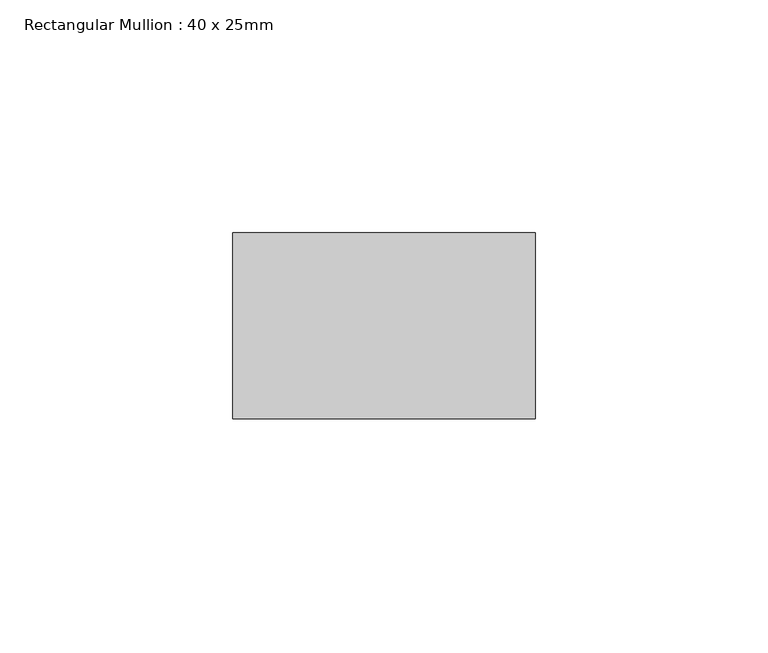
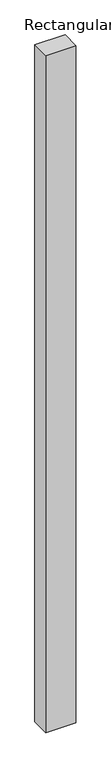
"""IFC4 building model written with IfcOpenShell, lengths in millimetres: member geometry, Rectangular Mullion : 40 x 25mm."""

from ifc_helpers import new_model, si_unit, frame, origin, place, context, project, spatial, polyline, outline, extrude, source, transform, mapped, element, save


def rectangular_mullion_40_x_25mm_165cdfc6(model_context):
    return source(origin(), model_context, "Body", "SweptSolid", [
        extrude(outline(polyline([(0.0, -20.0), (0.0, -60.0), (-65.0, -60.0), (-65.0, -20.0), (0.0, -20.0)])), frame((0.0, 0.0, -1540.0), z_axis=(0.0, 0.0, 1.0), x_axis=(1.0, 0.0, 0.0)), (0.0, 0.0, 1.0), 1540.0),
    ])


if __name__ == "__main__":
    model = new_model("IFC4")
    model_context = context("Model", 3, world=origin())
    ifc_project = project(units=[si_unit("LENGTHUNIT", "METRE", prefix="MILLI")], contexts=[model_context])
    site = spatial("IfcSite", under=ifc_project)
    building = spatial("IfcBuilding", under=site)
    placement = place(None, origin())
    rectangular_mullion_40_x_25mm_shape = rectangular_mullion_40_x_25mm_165cdfc6(model_context)
    element("IfcMember", 1, ObjectType="Rectangular Mullion : 40 x 25mm", at=placement, inside=building, context=model_context, shape_type="MappedRepresentation", body=[
        mapped(rectangular_mullion_40_x_25mm_shape, transform((0.0, 0.0, 0.0), x_axis=(1.0, 0.0, 0.0), y_axis=(0.0, 1.0, 0.0), z_axis=(0.0, 0.0, 1.0))),
    ])
    save(model, "model.ifc")
